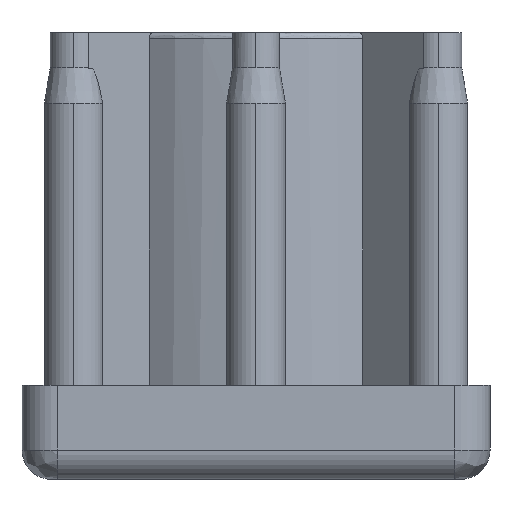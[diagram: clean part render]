
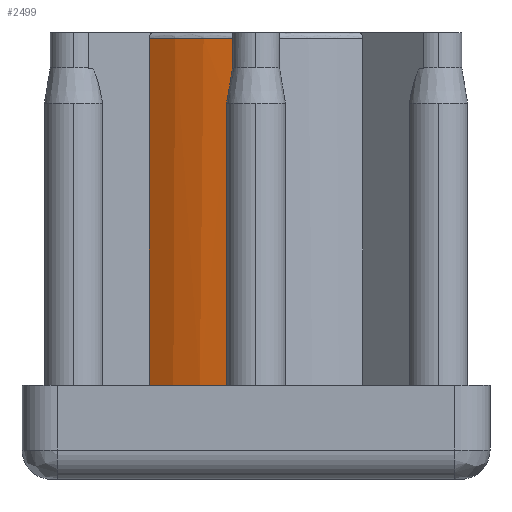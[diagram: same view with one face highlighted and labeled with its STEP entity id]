
A CAD part, left-side view. The second image highlights one B-rep face of the part: STEP entity #2499.
In plain terms, the highlighted cylindrical face has radius 15 mm (diameter 30 mm), a partial arc.
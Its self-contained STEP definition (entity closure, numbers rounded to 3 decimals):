
#58 = DIRECTION ( 'NONE',  ( 0., 0., 1. ) ) ;
#152 = AXIS2_PLACEMENT_3D ( 'NONE', #962, #3438, #1003 ) ;
#187 = VECTOR ( 'NONE', #1632, 1000. ) ;
#220 = ORIENTED_EDGE ( 'NONE', *, *, #1415, .T. ) ;
#415 = ORIENTED_EDGE ( 'NONE', *, *, #3469, .F. ) ;
#430 = CARTESIAN_POINT ( 'NONE',  ( -11.926, 9.098, 0. ) ) ;
#504 = CIRCLE ( 'NONE', #1877, 15. ) ;
#507 = VERTEX_POINT ( 'NONE', #3675 ) ;
#554 = CARTESIAN_POINT ( 'NONE',  ( -14.879, 1.899, 29.5 ) ) ;
#712 = EDGE_CURVE ( 'NONE', #1295, #507, #2555, .T. ) ;
#741 = VECTOR ( 'NONE', #2741, 1000. ) ;
#821 = ORIENTED_EDGE ( 'NONE', *, *, #1057, .F. ) ;
#962 = CARTESIAN_POINT ( 'NONE',  ( 0., 0., 0. ) ) ;
#1003 = DIRECTION ( 'NONE',  ( -0.795, 0.607, 0. ) ) ;
#1057 = EDGE_CURVE ( 'NONE', #3613, #1446, #1674, .T. ) ;
#1077 = CARTESIAN_POINT ( 'NONE',  ( 0., 0., 29.5 ) ) ;
#1249 = CARTESIAN_POINT ( 'NONE',  ( -11.926, 9.098, 29.5 ) ) ;
#1295 = VERTEX_POINT ( 'NONE', #554 ) ;
#1415 = EDGE_CURVE ( 'NONE', #3613, #2117, #1522, .T. ) ;
#1446 = VERTEX_POINT ( 'NONE', #1249 ) ;
#1506 = CARTESIAN_POINT ( 'NONE',  ( -14.806, 2.402, 24. ) ) ;
#1522 = CIRCLE ( 'NONE', #152, 15. ) ;
#1632 = DIRECTION ( 'NONE',  ( 0., 0., -1. ) ) ;
#1673 = EDGE_CURVE ( 'NONE', #1295, #1446, #504, .T. ) ;
#1674 = LINE ( 'NONE', #2463, #2700 ) ;
#1739 = B_SPLINE_CURVE_WITH_KNOTS ( 'NONE', 3,
 ( #2025, #3007, #3593, #3889 ),
 .UNSPECIFIED., .F., .F.,
 ( 4, 4 ),
 ( 0., 1. ),
 .UNSPECIFIED. ) ;
#1812 = ORIENTED_EDGE ( 'NONE', *, *, #712, .F. ) ;
#1877 = AXIS2_PLACEMENT_3D ( 'NONE', #1077, #2648, #3267 ) ;
#1951 = CARTESIAN_POINT ( 'NONE',  ( -14.879, 1.899, 29.5 ) ) ;
#2025 = CARTESIAN_POINT ( 'NONE',  ( -14.879, 1.899, 27. ) ) ;
#2117 = VERTEX_POINT ( 'NONE', #2838 ) ;
#2201 = AXIS2_PLACEMENT_3D ( 'NONE', #2407, #3070, #3045 ) ;
#2319 = EDGE_LOOP ( 'NONE', ( #1812, #3154, #821, #220, #2379, #415 ) ) ;
#2379 = ORIENTED_EDGE ( 'NONE', *, *, #3121, .F. ) ;
#2407 = CARTESIAN_POINT ( 'NONE',  ( 0., 0., 30. ) ) ;
#2424 = VERTEX_POINT ( 'NONE', #3601 ) ;
#2463 = CARTESIAN_POINT ( 'NONE',  ( -11.926, 9.098, 0. ) ) ;
#2496 = FACE_OUTER_BOUND ( 'NONE', #2319, .T. ) ;
#2499 = ADVANCED_FACE ( 'NONE', ( #2496 ), #3360, .T. ) ;
#2555 = LINE ( 'NONE', #1951, #187 ) ;
#2648 = DIRECTION ( 'NONE',  ( 0., 0., -1. ) ) ;
#2700 = VECTOR ( 'NONE', #58, 1000. ) ;
#2741 = DIRECTION ( 'NONE',  ( 0., 0., -1. ) ) ;
#2838 = CARTESIAN_POINT ( 'NONE',  ( -14.806, 2.402, 0. ) ) ;
#3007 = CARTESIAN_POINT ( 'NONE',  ( -14.858, 2.068, 26. ) ) ;
#3045 = DIRECTION ( 'NONE',  ( -1., 0., 0. ) ) ;
#3070 = DIRECTION ( 'NONE',  ( 0., 0., -1. ) ) ;
#3121 = EDGE_CURVE ( 'NONE', #2424, #2117, #3840, .T. ) ;
#3154 = ORIENTED_EDGE ( 'NONE', *, *, #1673, .T. ) ;
#3267 = DIRECTION ( 'NONE',  ( -0.992, 0.127, 0. ) ) ;
#3360 = CYLINDRICAL_SURFACE ( 'NONE', #2201, 15. ) ;
#3438 = DIRECTION ( 'NONE',  ( 0., 0., 1. ) ) ;
#3469 = EDGE_CURVE ( 'NONE', #507, #2424, #1739, .T. ) ;
#3593 = CARTESIAN_POINT ( 'NONE',  ( -14.833, 2.235, 25. ) ) ;
#3601 = CARTESIAN_POINT ( 'NONE',  ( -14.806, 2.402, 24. ) ) ;
#3613 = VERTEX_POINT ( 'NONE', #430 ) ;
#3675 = CARTESIAN_POINT ( 'NONE',  ( -14.879, 1.899, 27. ) ) ;
#3840 = LINE ( 'NONE', #1506, #741 ) ;
#3889 = CARTESIAN_POINT ( 'NONE',  ( -14.806, 2.402, 24. ) ) ;
